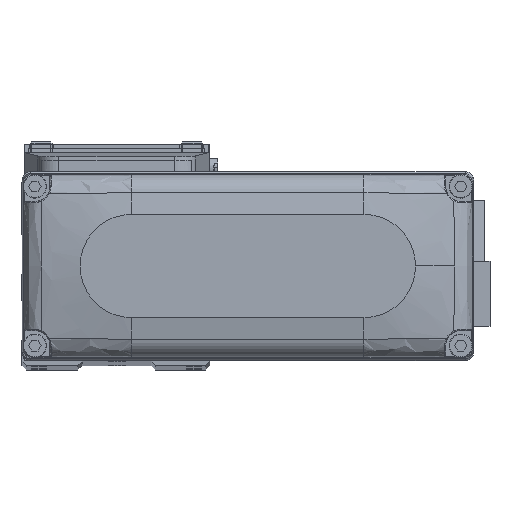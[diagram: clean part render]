
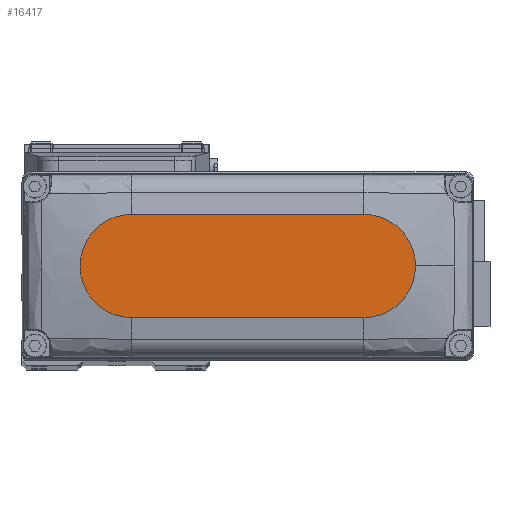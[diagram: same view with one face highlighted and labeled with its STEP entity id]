
A CAD part, top view. The second image highlights one B-rep face of the part: STEP entity #16417.
In plain terms, the highlighted planar face has unit normal (0, 0, 1).
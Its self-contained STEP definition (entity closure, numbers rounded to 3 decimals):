
#621 = DIRECTION ( 'NONE',  ( 1., 0., 0. ) ) ;
#724 = ORIENTED_EDGE ( 'NONE', *, *, #39167, .T. ) ;
#874 = AXIS2_PLACEMENT_3D ( 'NONE', #5228, #17579, #29851 ) ;
#2310 = AXIS2_PLACEMENT_3D ( 'NONE', #16012, #28304, #621 ) ;
#2371 = CARTESIAN_POINT ( 'NONE',  ( 27., 12., 25. ) ) ;
#2515 = VERTEX_POINT ( 'NONE', #34350 ) ;
#2870 = DIRECTION ( 'NONE',  ( -1., 0., 0. ) ) ;
#3380 = DIRECTION ( 'NONE',  ( 0., 0., 1. ) ) ;
#3652 = PLANE ( 'NONE',  #2310 ) ;
#3831 = VECTOR ( 'NONE', #37107, 1000. ) ;
#5228 = CARTESIAN_POINT ( 'NONE',  ( 27., 0., 25. ) ) ;
#5602 = CIRCLE ( 'NONE', #28177, 12. ) ;
#6614 = ORIENTED_EDGE ( 'NONE', *, *, #14165, .T. ) ;
#8479 = ORIENTED_EDGE ( 'NONE', *, *, #37964, .T. ) ;
#8812 = AXIS2_PLACEMENT_3D ( 'NONE', #26698, #38927, #11354 ) ;
#9948 = CARTESIAN_POINT ( 'NONE',  ( -27., 12., 25. ) ) ;
#11142 = EDGE_CURVE ( 'NONE', #35618, #16423, #18274, .T. ) ;
#11354 = DIRECTION ( 'NONE',  ( 1., 0., 0. ) ) ;
#12556 = LINE ( 'NONE', #24860, #3831 ) ;
#14165 = EDGE_CURVE ( 'NONE', #34953, #22669, #18342, .T. ) ;
#15744 = DIRECTION ( 'NONE',  ( 1., 0., 0. ) ) ;
#16012 = CARTESIAN_POINT ( 'NONE',  ( 0., 0., 25. ) ) ;
#16417 = ADVANCED_FACE ( 'NONE', ( #31300 ), #3652, .T. ) ;
#16423 = VERTEX_POINT ( 'NONE', #9948 ) ;
#17579 = DIRECTION ( 'NONE',  ( 0., 0., 1. ) ) ;
#18274 = LINE ( 'NONE', #30536, #21146 ) ;
#18342 = CIRCLE ( 'NONE', #874, 12. ) ;
#21146 = VECTOR ( 'NONE', #2870, 1000. ) ;
#22669 = VERTEX_POINT ( 'NONE', #33171 ) ;
#24052 = ORIENTED_EDGE ( 'NONE', *, *, #27917, .T. ) ;
#24386 = EDGE_LOOP ( 'NONE', ( #32425, #8479, #24052, #6614, #724 ) ) ;
#24860 = CARTESIAN_POINT ( 'NONE',  ( -27., -12., 25. ) ) ;
#26205 = CIRCLE ( 'NONE', #8812, 12. ) ;
#26698 = CARTESIAN_POINT ( 'NONE',  ( 27., 0., 25. ) ) ;
#27917 = EDGE_CURVE ( 'NONE', #2515, #34953, #12556, .T. ) ;
#28177 = AXIS2_PLACEMENT_3D ( 'NONE', #31035, #3380, #15744 ) ;
#28304 = DIRECTION ( 'NONE',  ( 0., 0., 1. ) ) ;
#29851 = DIRECTION ( 'NONE',  ( 1., 0., 0. ) ) ;
#30536 = CARTESIAN_POINT ( 'NONE',  ( -27., 12., 25. ) ) ;
#31035 = CARTESIAN_POINT ( 'NONE',  ( -27., 0., 25. ) ) ;
#31300 = FACE_OUTER_BOUND ( 'NONE', #24386, .T. ) ;
#32425 = ORIENTED_EDGE ( 'NONE', *, *, #11142, .T. ) ;
#33171 = CARTESIAN_POINT ( 'NONE',  ( 39., 0., 25. ) ) ;
#34350 = CARTESIAN_POINT ( 'NONE',  ( -27., -12., 25. ) ) ;
#34953 = VERTEX_POINT ( 'NONE', #39205 ) ;
#35618 = VERTEX_POINT ( 'NONE', #2371 ) ;
#37107 = DIRECTION ( 'NONE',  ( 1., 0., 0. ) ) ;
#37964 = EDGE_CURVE ( 'NONE', #16423, #2515, #5602, .T. ) ;
#38927 = DIRECTION ( 'NONE',  ( 0., 0., 1. ) ) ;
#39167 = EDGE_CURVE ( 'NONE', #22669, #35618, #26205, .T. ) ;
#39205 = CARTESIAN_POINT ( 'NONE',  ( 27., -12., 25. ) ) ;
